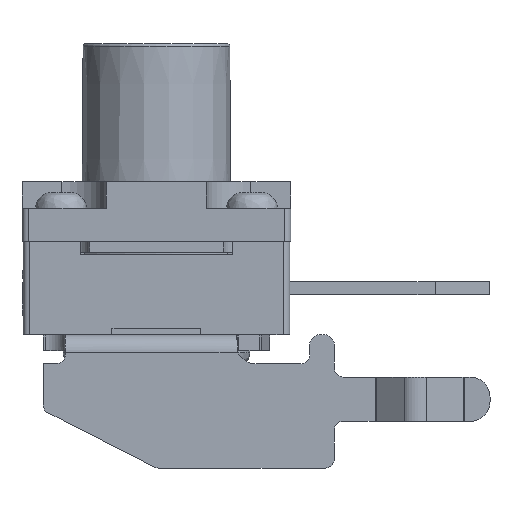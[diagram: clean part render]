
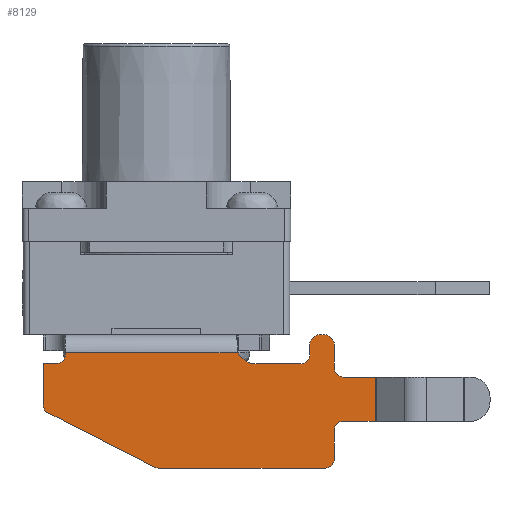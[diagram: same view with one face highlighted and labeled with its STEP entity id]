
A CAD part, front view. The second image highlights one B-rep face of the part: STEP entity #8129.
In plain terms, the highlighted planar face has unit normal (0, -1, 0).
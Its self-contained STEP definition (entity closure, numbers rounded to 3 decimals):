
#1702=DIRECTION('',(0.,0.,-1.));
#1703=VECTOR('',#1702,0.927);
#1704=CARTESIAN_POINT('',(-112.882,21.25,
-2.572));
#1705=LINE('',#1704,#1703);
#1714=DIRECTION('',(-1.,0.,0.));
#1715=VECTOR('',#1714,0.3);
#1716=CARTESIAN_POINT('',(-112.582,21.25,
-2.572));
#1717=LINE('',#1716,#1715);
#1726=DIRECTION('',(0.,0.,-1.));
#1727=VECTOR('',#1726,0.047);
#1728=CARTESIAN_POINT('',(-112.382,21.25,-2.325));
#1729=LINE('',#1728,#1727);
#1738=DIRECTION('',(-1.,0.,0.));
#1739=VECTOR('',#1738,0.733);
#1740=CARTESIAN_POINT('',(-105.411,21.25,
-3.872));
#1741=LINE('',#1740,#1739);
#1742=CARTESIAN_POINT('',(-106.143,21.25,
-4.06));
#1743=DIRECTION('',(0.,-1.,0.));
#1744=DIRECTION('',(0.,0.,1.));
#1745=AXIS2_PLACEMENT_3D('',#1742,#1743,#1744);
#1747=DIRECTION('',(0.,0.,-1.));
#1748=VECTOR('',#1747,0.661);
#1749=CARTESIAN_POINT('',(-106.332,21.25,
-4.06));
#1750=LINE('',#1749,#1748);
#1751=CARTESIAN_POINT('',(-106.532,21.25,
-4.722));
#1752=DIRECTION('',(0.,1.,0.));
#1753=DIRECTION('',(1.,0.,0.));
#1754=AXIS2_PLACEMENT_3D('',#1751,#1752,#1753);
#1756=DIRECTION('',(-1.,0.,0.));
#1757=VECTOR('',#1756,3.752);
#1758=CARTESIAN_POINT('',(-106.532,21.25,
-4.922));
#1759=LINE('',#1758,#1757);
#1760=CARTESIAN_POINT('',(-110.284,21.25,
-4.722));
#1761=DIRECTION('',(0.,1.,0.));
#1762=DIRECTION('',(0.,0.,-1.));
#1763=AXIS2_PLACEMENT_3D('',#1760,#1761,#1762);
#1765=DIRECTION('',(-0.891,0.,0.454));
#1766=VECTOR('',#1765,2.692);
#1767=CARTESIAN_POINT('',(-110.375,21.25,
-4.9));
#1768=LINE('',#1767,#1766);
#1769=CARTESIAN_POINT('',(-112.682,21.25,
-3.499));
#1770=DIRECTION('',(0.,1.,0.));
#1771=DIRECTION('',(-0.454,0.,-0.891));
#1772=AXIS2_PLACEMENT_3D('',#1769,#1770,#1771);
#1774=CARTESIAN_POINT('',(-112.582,21.25,
-2.372));
#1775=DIRECTION('',(0.,-1.,0.));
#1776=DIRECTION('',(0.,0.,-1.));
#1777=AXIS2_PLACEMENT_3D('',#1774,#1775,#1776);
#1779=CARTESIAN_POINT('',(-108.091,21.25,
-2.125));
#1780=DIRECTION('',(0.,-1.,0.));
#1781=DIRECTION('',(-0.896,0.,-0.443));
#1782=AXIS2_PLACEMENT_3D('',#1779,#1780,#1781);
#1784=CARTESIAN_POINT('',(-108.091,21.25,
-2.125));
#1785=DIRECTION('',(0.,-1.,0.));
#1786=DIRECTION('',(0.,0.,-1.));
#1787=AXIS2_PLACEMENT_3D('',#1784,#1785,#1786);
#1789=CARTESIAN_POINT('',(-107.082,21.25,
-2.372));
#1790=DIRECTION('',(0.,-1.,0.));
#1791=DIRECTION('',(0.,0.,-1.));
#1792=AXIS2_PLACEMENT_3D('',#1789,#1790,#1791);
#1794=CARTESIAN_POINT('',(-106.662,21.25,
-2.142));
#1795=DIRECTION('',(0.,1.,0.));
#1796=DIRECTION('',(-1.,0.,0.));
#1797=AXIS2_PLACEMENT_3D('',#1794,#1795,#1796);
#1799=CARTESIAN_POINT('',(-106.552,21.25,
-2.142));
#1800=DIRECTION('',(0.,1.,0.));
#1801=DIRECTION('',(0.,0.,1.));
#1802=AXIS2_PLACEMENT_3D('',#1799,#1800,#1801);
#1804=CARTESIAN_POINT('',(-106.132,21.25,
-2.672));
#1805=DIRECTION('',(0.,-1.,0.));
#1806=DIRECTION('',(-1.,0.,0.));
#1807=AXIS2_PLACEMENT_3D('',#1804,#1805,#1806);
#1809=DIRECTION('',(0.,0.,-1.));
#1810=VECTOR('',#1809,1.);
#1811=CARTESIAN_POINT('',(-105.411,21.25,
-2.872));
#1812=LINE('',#1811,#1810);
#1833=DIRECTION('',(-1.,0.,0.));
#1834=VECTOR('',#1833,3.888);
#1835=CARTESIAN_POINT('',(-108.494,21.25,
-2.325));
#1836=LINE('',#1835,#1834);
#1857=DIRECTION('',(-1.,0.,0.));
#1858=VECTOR('',#1857,0.95);
#1859=CARTESIAN_POINT('',(-107.082,21.25,
-2.572));
#1860=LINE('',#1859,#1858);
#1873=DIRECTION('',(0.,0.,-1.));
#1874=VECTOR('',#1873,0.23);
#1875=CARTESIAN_POINT('',(-106.882,21.25,
-2.142));
#1876=LINE('',#1875,#1874);
#1889=DIRECTION('',(-1.,0.,0.));
#1890=VECTOR('',#1889,0.11);
#1891=CARTESIAN_POINT('',(-106.552,21.25,
-1.922));
#1892=LINE('',#1891,#1890);
#1905=DIRECTION('',(0.,0.,1.));
#1906=VECTOR('',#1905,0.53);
#1907=CARTESIAN_POINT('',(-106.332,21.25,
-2.672));
#1908=LINE('',#1907,#1906);
#1921=DIRECTION('',(-1.,0.,0.));
#1922=VECTOR('',#1921,0.721);
#1923=CARTESIAN_POINT('',(-105.411,21.25,
-2.872));
#1924=LINE('',#1923,#1922);
#4269=CARTESIAN_POINT('',(-110.375,21.25,
-4.9));
#4271=VERTEX_POINT('',#4269);
#4274=CARTESIAN_POINT('',(-110.284,21.25,
-4.922));
#4276=VERTEX_POINT('',#4274);
#4325=CARTESIAN_POINT('',(-105.411,21.25,
-2.872));
#4326=VERTEX_POINT('',#4325);
#4377=CARTESIAN_POINT('',(-105.411,21.25,
-3.872));
#4378=VERTEX_POINT('',#4377);
#4379=CARTESIAN_POINT('',(-106.332,21.25,
-4.06));
#4380=VERTEX_POINT('',#4379);
#4381=CARTESIAN_POINT('',(-106.143,21.25,
-3.872));
#4382=VERTEX_POINT('',#4381);
#4383=CARTESIAN_POINT('',(-106.532,21.25,
-4.922));
#4384=VERTEX_POINT('',#4383);
#4385=CARTESIAN_POINT('',(-106.332,21.25,
-4.722));
#4386=VERTEX_POINT('',#4385);
#4387=CARTESIAN_POINT('',(-112.773,21.25,
-3.677));
#4388=VERTEX_POINT('',#4387);
#4389=CARTESIAN_POINT('',(-112.882,21.25,
-3.499));
#4390=VERTEX_POINT('',#4389);
#4391=CARTESIAN_POINT('',(-112.882,21.25,
-2.572));
#4392=VERTEX_POINT('',#4391);
#4393=CARTESIAN_POINT('',(-112.582,21.25,
-2.572));
#4394=VERTEX_POINT('',#4393);
#4395=CARTESIAN_POINT('',(-112.382,21.25,
-2.372));
#4396=VERTEX_POINT('',#4395);
#4397=CARTESIAN_POINT('',(-112.382,21.25,-2.325));
#4398=VERTEX_POINT('',#4397);
#4399=CARTESIAN_POINT('',(-108.494,21.25,
-2.325));
#4400=CARTESIAN_POINT('',(-108.091,21.25,
-2.575));
#4401=VERTEX_POINT('',#4399);
#4402=VERTEX_POINT('',#4400);
#4403=CARTESIAN_POINT('',(-108.032,21.25,
-2.572));
#4404=VERTEX_POINT('',#4403);
#4405=CARTESIAN_POINT('',(-107.082,21.25,
-2.572));
#4406=VERTEX_POINT('',#4405);
#4407=CARTESIAN_POINT('',(-106.882,21.25,
-2.372));
#4408=VERTEX_POINT('',#4407);
#4409=CARTESIAN_POINT('',(-106.882,21.25,
-2.142));
#4410=VERTEX_POINT('',#4409);
#4411=CARTESIAN_POINT('',(-106.662,21.25,
-1.922));
#4412=VERTEX_POINT('',#4411);
#4413=CARTESIAN_POINT('',(-106.552,21.25,
-1.922));
#4414=VERTEX_POINT('',#4413);
#4415=CARTESIAN_POINT('',(-106.332,21.25,
-2.142));
#4416=VERTEX_POINT('',#4415);
#4417=CARTESIAN_POINT('',(-106.332,21.25,
-2.672));
#4418=VERTEX_POINT('',#4417);
#4419=CARTESIAN_POINT('',(-106.132,21.25,
-2.872));
#4420=VERTEX_POINT('',#4419);
#8085=CARTESIAN_POINT('',(-109.146,21.25,
-3.422));
#8086=DIRECTION('',(0.,1.,0.));
#8087=DIRECTION('',(0.,0.,-1.));
#8088=AXIS2_PLACEMENT_3D('',#8085,#8086,#8087);
#8089=PLANE('',#8088);
#8090=ORIENTED_EDGE('',*,*,#7927,.T.);
#8091=ORIENTED_EDGE('',*,*,#7940,.T.);
#8092=ORIENTED_EDGE('',*,*,#7954,.T.);
#8093=ORIENTED_EDGE('',*,*,#7968,.T.);
#8094=ORIENTED_EDGE('',*,*,#7982,.T.);
#8095=ORIENTED_EDGE('',*,*,#7996,.T.);
#8096=ORIENTED_EDGE('',*,*,#8010,.T.);
#8097=ORIENTED_EDGE('',*,*,#8024,.T.);
#8098=ORIENTED_EDGE('',*,*,#8038,.F.);
#8099=ORIENTED_EDGE('',*,*,#8052,.F.);
#8100=ORIENTED_EDGE('',*,*,#8066,.T.);
#8101=ORIENTED_EDGE('',*,*,#8078,.F.);
#8103=ORIENTED_EDGE('',*,*,#8102,.F.);
#8105=ORIENTED_EDGE('',*,*,#8104,.T.);
#8107=ORIENTED_EDGE('',*,*,#8106,.T.);
#8109=ORIENTED_EDGE('',*,*,#8108,.F.);
#8111=ORIENTED_EDGE('',*,*,#8110,.T.);
#8113=ORIENTED_EDGE('',*,*,#8112,.F.);
#8115=ORIENTED_EDGE('',*,*,#8114,.T.);
#8117=ORIENTED_EDGE('',*,*,#8116,.F.);
#8119=ORIENTED_EDGE('',*,*,#8118,.T.);
#8121=ORIENTED_EDGE('',*,*,#8120,.F.);
#8123=ORIENTED_EDGE('',*,*,#8122,.T.);
#8125=ORIENTED_EDGE('',*,*,#8124,.F.);
#8126=ORIENTED_EDGE('',*,*,#7900,.T.);
#8127=EDGE_LOOP('',(#8090,#8091,#8092,#8093,#8094,#8095,#8096,#8097,#8098,#8099,
#8100,#8101,#8103,#8105,#8107,#8109,#8111,#8113,#8115,#8117,#8119,#8121,#8123,
#8125,#8126));
#8128=FACE_OUTER_BOUND('',#8127,.F.);
#1746=CIRCLE('',#1745,0.189);
#1755=CIRCLE('',#1754,0.2);
#1764=CIRCLE('',#1763,0.2);
#1773=CIRCLE('',#1772,0.2);
#1778=CIRCLE('',#1777,0.2);
#1783=CIRCLE('',#1782,0.45);
#1788=CIRCLE('',#1787,0.45);
#1793=CIRCLE('',#1792,0.2);
#1798=CIRCLE('',#1797,0.22);
#1803=CIRCLE('',#1802,0.22);
#1808=CIRCLE('',#1807,0.2);
#7900=EDGE_CURVE('',#4326,#4378,#1812,.T.);
#7927=EDGE_CURVE('',#4378,#4382,#1741,.T.);
#7940=EDGE_CURVE('',#4382,#4380,#1746,.T.);
#7954=EDGE_CURVE('',#4380,#4386,#1750,.T.);
#7968=EDGE_CURVE('',#4386,#4384,#1755,.T.);
#7982=EDGE_CURVE('',#4384,#4276,#1759,.T.);
#7996=EDGE_CURVE('',#4276,#4271,#1764,.T.);
#8010=EDGE_CURVE('',#4271,#4388,#1768,.T.);
#8024=EDGE_CURVE('',#4388,#4390,#1773,.T.);
#8038=EDGE_CURVE('',#4392,#4390,#1705,.T.);
#8052=EDGE_CURVE('',#4394,#4392,#1717,.T.);
#8066=EDGE_CURVE('',#4394,#4396,#1778,.T.);
#8078=EDGE_CURVE('',#4398,#4396,#1729,.T.);
#8102=EDGE_CURVE('',#4401,#4398,#1836,.T.);
#8104=EDGE_CURVE('',#4401,#4402,#1783,.T.);
#8106=EDGE_CURVE('',#4402,#4404,#1788,.T.);
#8108=EDGE_CURVE('',#4406,#4404,#1860,.T.);
#8110=EDGE_CURVE('',#4406,#4408,#1793,.T.);
#8112=EDGE_CURVE('',#4410,#4408,#1876,.T.);
#8114=EDGE_CURVE('',#4410,#4412,#1798,.T.);
#8116=EDGE_CURVE('',#4414,#4412,#1892,.T.);
#8118=EDGE_CURVE('',#4414,#4416,#1803,.T.);
#8120=EDGE_CURVE('',#4418,#4416,#1908,.T.);
#8122=EDGE_CURVE('',#4418,#4420,#1808,.T.);
#8124=EDGE_CURVE('',#4326,#4420,#1924,.T.);
#8129=ADVANCED_FACE('',(#8128),#8089,.F.);
